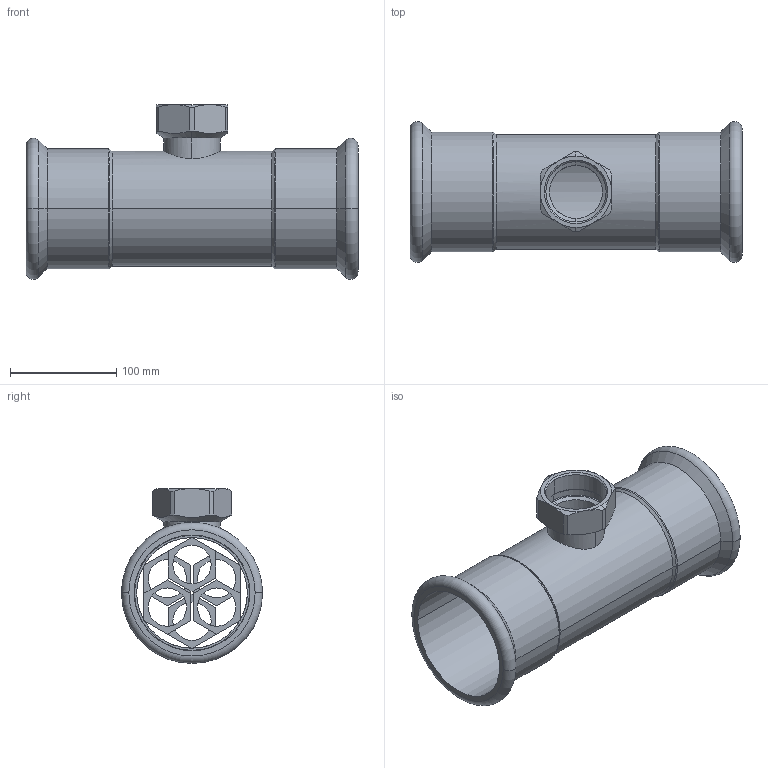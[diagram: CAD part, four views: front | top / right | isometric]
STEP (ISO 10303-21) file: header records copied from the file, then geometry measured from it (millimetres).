
FILE_DESCRIPTION(('OneSpaceDesigner STEP Export'),'2;1');
FILE_NAME('R2718 108xRp2x108.stp','2010-06-10T12:43:51',(''),(''),'OneSpace Designer STEP processor for AP214 (Solid Model)','OneSpace Modeling 15.00A 14-Mar-2007 (C) CoCreate Software GmbH','');
FILE_SCHEMA(('AUTOMOTIVE_DESIGN { 1 0 10303 214 1 1 1 1 }'));
Length unit declared in the file: millimetre
Products named in the file (2): R2718_108xRp2x108
Assembly tree (1 placements, depth 2):
  R2718_108xRp2x108
    R2718_108xRp2x108
Bounding box: 312 x 132.58 x 164.29 mm (x, y, z)
Volume: 373273.8 mm3; surface area: 257439.4 mm2
Topology: 1 solids, 1 shells, 148 faces, 368 edges, 234 vertices
Faces by surface type: plane 68, cylinder 48, cone 24, torus 8
Entity records: 6115 total; most frequent: CARTESIAN_POINT 2910, ORIENTED_EDGE 736, DIRECTION 538, EDGE_CURVE 368, VERTEX_POINT 234, VECTOR 204, LINE 204, EDGE_LOOP 176
